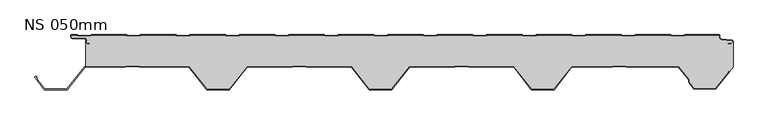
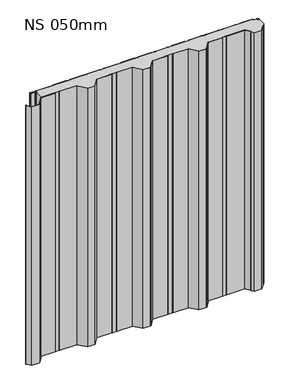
"""IFC4 building model written with IfcOpenShell, lengths in millimetres: plate geometry, KIP-MEX-KC-R19-CP-NS-SL : NS 050mm."""

from ifc_helpers import new_model, si_unit, point, frame, frame_2d, origin, origin_with_axes, place, context, project, spatial, polyline, circle_curve, trimmed, segment, composite_curve, outline, extrude, source, transform, mapped, element, save
from ifc_brep_helpers import plane_surface, cylinder_surface, revolved_surface, advanced_brep


def ns_050mm_d5d04edd(model_context):
    return source(origin(), model_context, "Body", "SolidModel", [
        advanced_brep(
        [(489.051258, -60.0327477, 1224.3718713), (491.4166419, -55.6292245, 1224.3718713), (492.2982989, -56.1011177, 1224.3718713), (489.8911639, -60.5823669, 1224.3718713), (498.3652789, -49.7971296, 1224.3718713), (498.3666923, -11.2514375, 1224.3718713), (496.0840542, -13.6351997, 1224.3718713), (490.2938452, -14.1562355, 1224.3718713), (490.2059002, -13.178913, 1224.3718713), (495.9395891, -12.6629632, 1224.3718713), (497.3642752, -10.8760369, 1224.3718713), (495.9342793, -8.8936988, 1224.3718713), (479.8720443, -7.4885937, 1224.3718713), (477.1334803, -4.5000049, 1224.3718713), (477.1334803, -1.0, 1224.3718713), (424.1786391, -1.0, 1224.3718713), (422.7930062, -2.2002307, 1224.3718713), (403.4178399, -2.2002307, 1224.3718713), (402.0322069, -1.0, 1224.3718713), (347.9787915, -1.0, 1224.3718713), (346.5931586, -2.2002307, 1224.3718713), (327.2179923, -2.2002307, 1224.3718713), (325.8323593, -1.0, 1224.3718713), (271.7789439, -1.0, 1224.3718713), (270.393311, -2.2002307, 1224.3718713), (251.0181447, -2.2002307, 1224.3718713), (249.6325117, -1.0, 1224.3718713), (195.5790963, -1.0, 1224.3718713), (194.1934634, -2.2002307, 1224.3718713), (174.8182971, -2.2002307, 1224.3718713), (173.4326641, -1.0, 1224.3718713), (119.3792487, -1.0, 1224.3718713), (117.9936158, -2.2002307, 1224.3718713), (98.6184495, -2.2002307, 1224.3718713), (97.2328165, -1.0, 1224.3718713), (43.1794011, -1.0, 1224.3718713), (41.7937682, -2.2002307, 1224.3718713), (22.4186019, -2.2002307, 1224.3718713), (21.0329689, -1.0, 1224.3718713), (-33.0204465, -1.0, 1224.3718713), (-34.4060794, -2.2002307, 1224.3718713), (-53.7812457, -2.2002307, 1224.3718713), (-55.1668787, -1.0, 1224.3718713), (-109.2202941, -1.0, 1224.3718713), (-110.605927, -2.2002307, 1224.3718713), (-129.9810933, -2.2002307, 1224.3718713), (-131.3667263, -1.0, 1224.3718713), (-185.4201417, -1.0, 1224.3718713), (-186.8057746, -2.2002307, 1224.3718713), (-206.1809409, -2.2002307, 1224.3718713), (-207.5665739, -1.0, 1224.3718713), (-261.6199893, -1.0, 1224.3718713), (-263.0056222, -2.2002307, 1224.3718713), (-282.3807885, -2.2002307, 1224.3718713), (-283.7664215, -1.0, 1224.3718713), (-337.8198369, -1.0, 1224.3718713), (-339.2054698, -2.2002307, 1224.3718713), (-358.5806361, -2.2002307, 1224.3718713), (-359.9662691, -1.0, 1224.3718713), (-414.0196845, -1.0, 1224.3718713), (-415.4053174, -2.2002307, 1224.3718713), (-434.7804837, -2.2002307, 1224.3718713), (-436.1661167, -1.0, 1224.3718713), (-490.2195321, -1.0, 1224.3718713), (-491.605165, -2.2002307, 1224.3718713), (-510.9803313, -2.2002307, 1224.3718713), (-512.365974, -0.9999916, 1224.3718713), (-520.8675386, -0.9999916, 1224.3718713), (-520.8675386, -2.4999198, 1224.3718713), (-518.3676343, -4.9998241, 1224.3718713), (-500.3670493, -4.9998241, 1224.3718713), (-497.3666912, -7.998082, 1224.3718713), (-497.3666912, -11.5943952, 1224.3718713), (-496.1253972, -13.0725686, 1224.3718713), (-492.5830624, -13.6943971, 1224.3718713), (-492.7559608, -14.6793372, 1224.3718713), (-496.2982963, -14.0575086, 1224.3718713), (-498.3666923, -11.5958694, 1224.3718713), (-498.3666923, -49.0, 1224.3718713), (-437.8440582, -49.0, 1224.3718713), (-436.4297751, -47.9999989, 1224.3718713), (-417.2222535, -47.9999989, 1224.3718713), (-415.8079704, -49.0, 1224.3718713), (-339.3089934, -49.0, 1224.3718713), (-311.8089635, -84.000038, 1224.3718713), (-277.7809961, -84.000038, 1224.3718713), (-250.2809663, -49.0, 1224.3718713), (-180.8128881, -49.0, 1224.3718713), (-179.398605, -47.9999989, 1224.3718713), (-160.1910833, -47.9999989, 1224.3718713), (-158.7768003, -49.0, 1224.3718713), (-89.3087221, -49.0, 1224.3718713), (-61.8086922, -84.000038, 1224.3718713), (-27.7807248, -84.000038, 1224.3718713), (-0.280695, -49.0, 1224.3718713), (69.1090864, -49.0, 1224.3718713), (70.1732653, -47.9999989, 1224.3718713), (89.809188, -47.9999989, 1224.3718713), (91.2234711, -49.0, 1224.3718713), (160.6915492, -49.0, 1224.3718713), (188.1915791, -84.000038, 1224.3718713), (222.2195465, -84.000038, 1224.3718713), (249.7195763, -49.0, 1224.3718713), (312.1567557, -49.0, 1224.3718713), (313.5710388, -47.9999989, 1224.3718713), (332.7785605, -47.9999989, 1224.3718713), (334.1928435, -49.0, 1224.3718713), (414.6918249, -49.0, 1224.3718713), (430.7058064, -69.3814311, 1224.3718713), (430.7058064, -73.199617, 1224.3718713), (438.4061363, -83.0000369, 1224.3718713), (471.0055308, -83.0000369, 1224.3718713), (489.051258, -60.0327477, 0.0), (471.0055308, -83.0000369, 0.0), (438.4061363, -83.0000369, 0.0), (430.7058064, -73.199617, 0.0), (430.7058064, -69.3814311, 0.0), (414.6918249, -49.0, 0.0), (334.1928435, -49.0, 0.0), (332.7785605, -47.9999989, 0.0), (313.5710388, -47.9999989, 0.0), (312.1567557, -49.0, 0.0), (249.7195763, -49.0, 0.0), (222.2195465, -84.000038, 0.0), (188.1915791, -84.000038, 0.0), (160.6915492, -49.0, 0.0), (91.2234711, -49.0, 0.0), (89.809188, -47.9999989, 0.0), (70.1732653, -47.9999989, 0.0), (69.1090864, -49.0, 0.0), (-0.280695, -49.0, 0.0), (-27.7807248, -84.000038, 0.0), (-61.8086922, -84.000038, 0.0), (-89.3087221, -49.0, 0.0), (-158.7768003, -49.0, 0.0), (-160.1910833, -47.9999989, 0.0), (-179.398605, -47.9999989, 0.0), (-180.8128881, -49.0, 0.0), (-250.2809663, -49.0, 0.0), (-277.7809961, -84.000038, 0.0), (-311.8089635, -84.000038, 0.0), (-339.3089934, -49.0, 0.0), (-415.8079704, -49.0, 0.0), (-417.2222535, -47.9999989, 0.0), (-436.4297751, -47.9999989, 0.0), (-437.8440582, -49.0, 0.0), (-498.3666923, -49.0, 0.0), (-498.3666923, -11.5958694, 0.0), (-496.2982963, -14.0575086, 0.0), (-492.7559608, -14.6793372, 0.0), (-492.5830624, -13.6943971, 0.0), (-496.1253972, -13.0725686, 0.0), (-497.3666912, -11.5943952, 0.0), (-497.3666912, -7.998082, 0.0), (-500.3670493, -4.9998241, 0.0), (-518.3676343, -4.9998241, 0.0), (-520.8675386, -2.4999198, 0.0), (-520.8675386, -0.9999916, 0.0), (-512.365974, -0.9999916, 0.0), (-510.9803313, -2.2002307, 0.0), (-491.605165, -2.2002307, 0.0), (-490.2195321, -1.0, 0.0), (-436.1661167, -1.0, 0.0), (-434.7804837, -2.2002307, 0.0), (-415.4053174, -2.2002307, 0.0), (-414.0196845, -1.0, 0.0), (-359.9662691, -1.0, 0.0), (-358.5806361, -2.2002307, 0.0), (-339.2054698, -2.2002307, 0.0), (-337.8198369, -1.0, 0.0), (-283.7664215, -1.0, 0.0), (-282.3807885, -2.2002307, 0.0), (-263.0056222, -2.2002307, 0.0), (-261.6199893, -1.0, 0.0), (-207.5665739, -1.0, 0.0), (-206.1809409, -2.2002307, 0.0), (-186.8057746, -2.2002307, 0.0), (-185.4201417, -1.0, 0.0), (-131.3667263, -1.0, 0.0), (-129.9810933, -2.2002307, 0.0), (-110.605927, -2.2002307, 0.0), (-109.2202941, -1.0, 0.0), (-55.1668787, -1.0, 0.0), (-53.7812457, -2.2002307, 0.0), (-34.4060794, -2.2002307, 0.0), (-33.0204465, -1.0, 0.0), (21.0329689, -1.0, 0.0), (22.4186019, -2.2002307, 0.0), (41.7937682, -2.2002307, 0.0), (43.1794011, -1.0, 0.0), (97.2328165, -1.0, 0.0), (98.6184495, -2.2002307, 0.0), (117.9936158, -2.2002307, 0.0), (119.3792487, -1.0, 0.0), (173.4326641, -1.0, 0.0), (174.8182971, -2.2002307, 0.0), (194.1934634, -2.2002307, 0.0), (195.5790963, -1.0, 0.0), (249.6325117, -1.0, 0.0), (251.0181447, -2.2002307, 0.0), (270.393311, -2.2002307, 0.0), (271.7789439, -1.0, 0.0), (325.8323593, -1.0, 0.0), (327.2179923, -2.2002307, 0.0), (346.5931586, -2.2002307, 0.0), (347.9787915, -1.0, 0.0), (402.0322069, -1.0, 0.0), (403.4178399, -2.2002307, 0.0), (422.7930062, -2.2002307, 0.0), (424.1786391, -1.0, 0.0), (477.1334803, -1.0, 0.0), (477.1334803, -4.5000049, 0.0), (479.8720443, -7.4885937, 0.0), (495.9342793, -8.8936988, 0.0), (497.3642752, -10.8760369, 0.0), (495.9395891, -12.6629632, 0.0), (490.2059002, -13.178913, 0.0), (490.2938452, -14.1562355, 0.0), (496.0840542, -13.6351997, 0.0), (498.3666923, -11.2514375, 0.0), (498.3652789, -49.7971296, 0.0), (489.8911639, -60.5823669, 0.0), (492.2982989, -56.1011177, 0.0), (491.4166419, -55.6292245, 0.0)],
        [
            (0, 1),
            (1, 2),
            (2, 3),
            (3, 4),
            (4, 5),
            (5, 6, circle_curve(frame((495.5554081, -10.8441969, 1224.3718713), z_axis=(0.0, 0.0, -1.0), x_axis=(0.0, -1.0, 0.0)), 2.8406273)),
            (6, 7),
            (7, 8),
            (8, 9),
            (9, 10, circle_curve(frame((495.560247, -10.8991179, 1224.3718713), z_axis=(0.0, 0.0, 1.0), x_axis=(0.0, -1.0, 0.0)), 1.8041759)),
            (10, 11, circle_curve(frame((495.5292107, -10.6928483, 1224.3718713), z_axis=(0.0, 0.0, 1.0), x_axis=(0.0, -1.0, 0.0)), 1.8441854)),
            (11, 12),
            (12, 13, circle_curve(frame((480.1334825, -4.5000049, 1224.3718713), z_axis=(0.0, 0.0, -1.0), x_axis=(0.0, -1.0, 0.0)), 3.0000022)),
            (13, 14),
            (14, 15),
            (15, 16),
            (16, 17),
            (17, 18),
            (18, 19),
            (19, 20),
            (20, 21),
            (21, 22),
            (22, 23),
            (23, 24),
            (24, 25),
            (25, 26),
            (26, 27),
            (27, 28),
            (28, 29),
            (29, 30),
            (30, 31),
            (31, 32),
            (32, 33),
            (33, 34),
            (34, 35),
            (35, 36),
            (36, 37),
            (37, 38),
            (38, 39),
            (39, 40),
            (40, 41),
            (41, 42),
            (42, 43),
            (43, 44),
            (44, 45),
            (45, 46),
            (46, 47),
            (47, 48),
            (48, 49),
            (49, 50),
            (50, 51),
            (51, 52),
            (52, 53),
            (53, 54),
            (54, 55),
            (55, 56),
            (56, 57),
            (57, 58),
            (58, 59),
            (59, 60),
            (60, 61),
            (61, 62),
            (62, 63),
            (63, 64),
            (64, 65),
            (65, 66),
            (66, 67),
            (67, 68),
            (68, 69, circle_curve(frame((-518.3676343, -2.4999198, 1224.3718713), z_axis=(0.0, 0.0, 1.0), x_axis=(0.0, -1.0, 0.0)), 2.4999043)),
            (69, 70),
            (70, 71, circle_curve(frame((-500.3670493, -8.0001829, 1224.3718713), z_axis=(0.0, 0.0, -1.0), x_axis=(0.0, -1.0, 0.0)), 3.0003589)),
            (71, 72),
            (72, 73, circle_curve(frame((-495.8659157, -11.5943952, 1224.3718713), z_axis=(0.0, 0.0, 1.0), x_axis=(0.0, -1.0, 0.0)), 1.5007755)),
            (73, 74),
            (74, 75),
            (75, 76),
            (76, 77, circle_curve(frame((-495.8659164, -11.5943948, 1224.3718713), z_axis=(0.0, 0.0, -1.0), x_axis=(0.0, -1.0, 0.0)), 2.5007762)),
            (77, 78),
            (78, 79),
            (79, 80),
            (80, 81),
            (81, 82),
            (82, 83),
            (83, 84),
            (84, 85),
            (85, 86),
            (86, 87),
            (87, 88),
            (88, 89),
            (89, 90),
            (90, 91),
            (91, 92),
            (92, 93),
            (93, 94),
            (94, 95),
            (95, 96),
            (96, 97),
            (97, 98),
            (98, 99),
            (99, 100),
            (100, 101),
            (101, 102),
            (102, 103),
            (103, 104),
            (104, 105),
            (105, 106),
            (106, 107),
            (107, 108),
            (108, 109),
            (109, 110),
            (110, 111),
            (111, 0),
            (112, 113),
            (113, 114),
            (114, 115),
            (115, 116),
            (116, 117),
            (117, 118),
            (118, 119),
            (119, 120),
            (120, 121),
            (121, 122),
            (122, 123),
            (123, 124),
            (124, 125),
            (125, 126),
            (126, 127),
            (127, 128),
            (128, 129),
            (129, 130),
            (130, 131),
            (131, 132),
            (132, 133),
            (133, 134),
            (134, 135),
            (135, 136),
            (136, 137),
            (137, 138),
            (138, 139),
            (139, 140),
            (140, 141),
            (141, 142),
            (142, 143),
            (143, 144),
            (144, 145),
            (145, 146),
            (146, 147),
            (147, 148, circle_curve(frame((-495.8659164, -11.5943948, 0.0), z_axis=(0.0, 0.0, 1.0), x_axis=(0.0, -1.0, 0.0)), 2.5007762)),
            (148, 149),
            (149, 150),
            (150, 151),
            (151, 152, circle_curve(frame((-495.8659157, -11.5943952, 0.0), z_axis=(0.0, 0.0, -1.0), x_axis=(0.0, -1.0, 0.0)), 1.5007755)),
            (152, 153),
            (153, 154, circle_curve(frame((-500.3670493, -8.0001829, 0.0), z_axis=(0.0, 0.0, 1.0), x_axis=(0.0, -1.0, 0.0)), 3.0003589)),
            (154, 155),
            (155, 156, circle_curve(frame((-518.3676343, -2.4999198, 0.0), z_axis=(0.0, 0.0, -1.0), x_axis=(0.0, -1.0, 0.0)), 2.4999043)),
            (156, 157),
            (157, 158),
            (158, 159),
            (159, 160),
            (160, 161),
            (161, 162),
            (162, 163),
            (163, 164),
            (164, 165),
            (165, 166),
            (166, 167),
            (167, 168),
            (168, 169),
            (169, 170),
            (170, 171),
            (171, 172),
            (172, 173),
            (173, 174),
            (174, 175),
            (175, 176),
            (176, 177),
            (177, 178),
            (178, 179),
            (179, 180),
            (180, 181),
            (181, 182),
            (182, 183),
            (183, 184),
            (184, 185),
            (185, 186),
            (186, 187),
            (187, 188),
            (188, 189),
            (189, 190),
            (190, 191),
            (191, 192),
            (192, 193),
            (193, 194),
            (194, 195),
            (195, 196),
            (196, 197),
            (197, 198),
            (198, 199),
            (199, 200),
            (200, 201),
            (201, 202),
            (202, 203),
            (203, 204),
            (204, 205),
            (205, 206),
            (206, 207),
            (207, 208),
            (208, 209),
            (209, 210),
            (210, 211),
            (211, 212, circle_curve(frame((480.1334825, -4.5000049, 0.0), z_axis=(0.0, 0.0, 1.0), x_axis=(0.0, -1.0, 0.0)), 3.0000022)),
            (212, 213),
            (213, 214, circle_curve(frame((495.5292107, -10.6928483, 0.0), z_axis=(0.0, 0.0, -1.0), x_axis=(0.0, -1.0, 0.0)), 1.8441854)),
            (214, 215, circle_curve(frame((495.560247, -10.8991179, 0.0), z_axis=(0.0, 0.0, -1.0), x_axis=(0.0, -1.0, 0.0)), 1.8041759)),
            (215, 216),
            (216, 217),
            (217, 218),
            (218, 219, circle_curve(frame((495.5554081, -10.8441969, 0.0), z_axis=(0.0, 0.0, 1.0), x_axis=(0.0, -1.0, 0.0)), 2.8406273)),
            (219, 220),
            (220, 221),
            (221, 222),
            (222, 223),
            (223, 112),
            (0, 112),
            (223, 1),
            (111, 113),
            (110, 114),
            (109, 115),
            (108, 116),
            (107, 117),
            (106, 118),
            (105, 119),
            (104, 120),
            (103, 121),
            (102, 122),
            (101, 123),
            (100, 124),
            (99, 125),
            (98, 126),
            (97, 127),
            (96, 128),
            (95, 129),
            (94, 130),
            (93, 131),
            (92, 132),
            (91, 133),
            (90, 134),
            (89, 135),
            (88, 136),
            (87, 137),
            (86, 138),
            (85, 139),
            (84, 140),
            (83, 141),
            (82, 142),
            (81, 143),
            (80, 144),
            (79, 145),
            (78, 146),
            (2, 222),
            (221, 3),
            (220, 4),
            (219, 5),
            (77, 147),
            (73, 151),
            (150, 74),
            (72, 152),
            (71, 153),
            (70, 154),
            (69, 155),
            (68, 156),
            (67, 157),
            (13, 211),
            (210, 14),
            (12, 212),
            (11, 213),
            (10, 214),
            (9, 215),
            (8, 216),
            (7, 217),
            (6, 218),
            (76, 148),
            (75, 149),
            (66, 158),
            (65, 159),
            (64, 160),
            (63, 161),
            (62, 162),
            (61, 163),
            (60, 164),
            (59, 165),
            (58, 166),
            (57, 167),
            (56, 168),
            (55, 169),
            (54, 170),
            (53, 171),
            (52, 172),
            (51, 173),
            (50, 174),
            (49, 175),
            (48, 176),
            (47, 177),
            (46, 178),
            (45, 179),
            (44, 180),
            (43, 181),
            (42, 182),
            (41, 183),
            (40, 184),
            (39, 185),
            (38, 186),
            (37, 187),
            (36, 188),
            (35, 189),
            (34, 190),
            (33, 191),
            (32, 192),
            (31, 193),
            (30, 194),
            (29, 195),
            (28, 196),
            (27, 197),
            (26, 198),
            (25, 199),
            (24, 200),
            (23, 201),
            (22, 202),
            (21, 203),
            (20, 204),
            (19, 205),
            (18, 206),
            (17, 207),
            (16, 208),
            (15, 209),
        ],
        [
            plane_surface(frame((0.0, -49.0, 1224.3718713), z_axis=(0.0, 0.0, 1.0), x_axis=(0.0, -1.0, 0.0))),
            plane_surface(frame((0.0, -49.0, 0.0), z_axis=(0.0, 0.0, -1.0), x_axis=(0.0, -1.0, 0.0))),
            plane_surface(frame((491.4166419, -55.6292245, 1224.3718713), z_axis=(0.8809503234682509, -0.4732087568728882, 0.0), x_axis=(0.0, 0.0, -1.0))),
            plane_surface(frame((489.051258, -60.0327477, 1224.3718713), z_axis=(0.7863183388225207, -0.6178215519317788, 0.0), x_axis=(0.0, 0.0, -1.0))),
            plane_surface(frame((471.0055308, -83.0000369, 1224.3718713), z_axis=(0.0, -1.0, 0.0), x_axis=(0.0, 0.0, -1.0))),
            plane_surface(frame((438.4061363, -83.0000369, 1224.3718713), z_axis=(-0.7863183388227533, -0.6178215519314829, 0.0), x_axis=(0.0, 0.0, -1.0))),
            plane_surface(frame((430.7058064, -73.199617, 1224.3718713), z_axis=(-1.0, 0.0, 0.0), x_axis=(0.0, 0.0, -1.0))),
            plane_surface(frame((430.7058064, -69.3814311, 1224.3718713), z_axis=(-0.7863183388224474, -0.6178215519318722, 0.0), x_axis=(0.0, 0.0, -1.0))),
            plane_surface(frame((414.6918249, -49.0, 1224.3718713), z_axis=(0.0, -1.0, 0.0), x_axis=(0.0, 0.0, -1.0))),
            plane_surface(frame((334.1928435, -49.0, 1224.3718713), z_axis=(-0.5773317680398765, -0.8165096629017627, 0.0), x_axis=(0.0, 0.0, -1.0))),
            plane_surface(frame((332.7785605, -47.9999989, 1224.3718713), z_axis=(0.0, -1.0, 0.0), x_axis=(0.0, 0.0, -1.0))),
            plane_surface(frame((313.5710388, -47.9999989, 1224.3718713), z_axis=(0.5773317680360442, -0.8165096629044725, 0.0), x_axis=(0.0, 0.0, -1.0))),
            plane_surface(frame((312.1567557, -49.0, 1224.3718713), z_axis=(0.0, -1.0, 0.0), x_axis=(0.0, 0.0, -1.0))),
            plane_surface(frame((249.7195763, -49.0, 1224.3718713), z_axis=(0.7863183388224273, -0.6178215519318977, 0.0), x_axis=(0.0, 0.0, -1.0))),
            plane_surface(frame((222.2195465, -84.000038, 1224.3718713), z_axis=(0.0, -1.0, 0.0), x_axis=(0.0, 0.0, -1.0))),
            plane_surface(frame((188.1915791, -84.000038, 1224.3718713), z_axis=(-0.7863183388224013, -0.6178215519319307, 0.0), x_axis=(0.0, 0.0, -1.0))),
            plane_surface(frame((160.6915492, -49.0, 1224.3718713), z_axis=(0.0, -1.0, 0.0), x_axis=(0.0, 0.0, -1.0))),
            plane_surface(frame((91.2234711, -49.0, 1224.3718713), z_axis=(-0.5773317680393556, -0.8165096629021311, 0.0), x_axis=(0.0, 0.0, -1.0))),
            plane_surface(frame((89.809188, -47.9999989, 1224.3718713), z_axis=(0.0, -1.0, 0.0), x_axis=(0.0, 0.0, -1.0))),
            plane_surface(frame((70.1732653, -47.9999989, 1224.3718713), z_axis=(0.6847910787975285, -0.7287394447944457, 0.0), x_axis=(0.0, 0.0, -1.0))),
            plane_surface(frame((69.1090864, -49.0, 1224.3718713), z_axis=(0.0, -1.0, 0.0), x_axis=(0.0, 0.0, -1.0))),
            plane_surface(frame((-0.280695, -49.0, 1224.3718713), z_axis=(0.7863183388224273, -0.6178215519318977, 0.0), x_axis=(0.0, 0.0, -1.0))),
            plane_surface(frame((-27.7807248, -84.000038, 1224.3718713), z_axis=(0.0, -1.0, 0.0), x_axis=(0.0, 0.0, -1.0))),
            plane_surface(frame((-61.8086922, -84.000038, 1224.3718713), z_axis=(-0.786318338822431, -0.617821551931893, 0.0), x_axis=(0.0, 0.0, -1.0))),
            plane_surface(frame((-89.3087221, -49.0, 1224.3718713), z_axis=(0.0, -1.0, 0.0), x_axis=(0.0, 0.0, -1.0))),
            plane_surface(frame((-158.7768003, -49.0, 1224.3718713), z_axis=(-0.5773317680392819, -0.8165096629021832, 0.0), x_axis=(0.0, 0.0, -1.0))),
            plane_surface(frame((-160.1910833, -47.9999989, 1224.3718713), z_axis=(0.0, -1.0, 0.0), x_axis=(0.0, 0.0, -1.0))),
            plane_surface(frame((-179.398605, -47.9999989, 1224.3718713), z_axis=(0.577331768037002, -0.8165096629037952, 0.0), x_axis=(0.0, 0.0, -1.0))),
            plane_surface(frame((-180.8128881, -49.0, 1224.3718713), z_axis=(0.0, -1.0, 0.0), x_axis=(0.0, 0.0, -1.0))),
            plane_surface(frame((-250.2809663, -49.0, 1224.3718713), z_axis=(0.7863183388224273, -0.6178215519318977, 0.0), x_axis=(0.0, 0.0, -1.0))),
            plane_surface(frame((-277.7809961, -84.000038, 1224.3718713), z_axis=(0.0, -1.0, 0.0), x_axis=(0.0, 0.0, -1.0))),
            plane_surface(frame((-311.8089635, -84.000038, 1224.3718713), z_axis=(-0.7863183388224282, -0.6178215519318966, 0.0), x_axis=(0.0, 0.0, -1.0))),
            plane_surface(frame((-339.3089934, -49.0, 1224.3718713), z_axis=(0.0, -1.0, 0.0), x_axis=(0.0, 0.0, -1.0))),
            plane_surface(frame((-415.8079704, -49.0, 1224.3718713), z_axis=(-0.577331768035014, -0.8165096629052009, 0.0), x_axis=(0.0, 0.0, -1.0))),
            plane_surface(frame((-417.2222535, -47.9999989, 1224.3718713), z_axis=(0.0, -1.0, 0.0), x_axis=(0.0, 0.0, -1.0))),
            plane_surface(frame((-436.4297751, -47.9999989, 1224.3718713), z_axis=(0.577331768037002, -0.8165096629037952, 0.0), x_axis=(0.0, 0.0, -1.0))),
            plane_surface(frame((-437.8440582, -49.0, 1224.3718713), z_axis=(0.0, -1.0, 0.0), x_axis=(0.0, 0.0, -1.0))),
            plane_surface(frame((489.8911639, -60.5823669, 1224.3718713), z_axis=(-0.8809503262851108, 0.4732087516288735, 0.0), x_axis=(0.0, 0.0, -1.0))),
            plane_surface(frame((492.2982989, -56.1011177, 1224.3718713), z_axis=(-0.4718927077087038, -0.8816559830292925, 0.0), x_axis=(0.0, 0.0, -1.0))),
            plane_surface(frame((498.3652789, -49.7971296, 1224.3718713), z_axis=(0.7863183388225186, -0.6178215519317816, 0.0), x_axis=(0.0, 0.0, -1.0))),
            plane_surface(frame((498.3652789, -44.8065083, 1224.3718713), z_axis=(1.0, 0.0, 0.0), x_axis=(0.0, 0.0, -1.0))),
            plane_surface(frame((-498.3666923, -49.0, 1224.3718713), z_axis=(-1.0, 0.0, 0.0), x_axis=(0.0, 0.0, -1.0))),
            plane_surface(frame((-492.5830624, -13.6943971, 1224.3718713), z_axis=(-0.17289827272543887, -0.9849396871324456, 0.0), x_axis=(0.0, 0.0, -1.0))),
            cylinder_surface(frame((-495.8659157, -11.5943952, 1224.3718713), z_axis=(0.0, 0.0, 1.0), x_axis=(0.0, -1.0, 0.0)), 1.5007755),
            plane_surface(frame((-497.3666912, -11.5943952, 1224.3718713), z_axis=(-1.0, 0.0, 0.0), x_axis=(0.0, 0.0, -1.0))),
            revolved_surface(polyline([(-500.3670493, -11.0005418, 0.0), (-500.3670493, -11.0005418, 1224.3718713)]), (-500.3670493, -8.0001829, 1224.3718713), (0.0, 0.0, -1.0)),
            plane_surface(frame((-500.3670493, -4.9998241, 1224.3718713), z_axis=(0.0, -1.0, 0.0), x_axis=(0.0, 0.0, -1.0))),
            cylinder_surface(frame((-518.3676343, -2.4999198, 1224.3718713), z_axis=(0.0, 0.0, 1.0), x_axis=(0.0, -1.0, 0.0)), 2.4999043),
            plane_surface(frame((-520.8675386, -2.4999198, 1224.3718713), z_axis=(-1.0, 0.0, 0.0), x_axis=(0.0, 0.0, -1.0))),
            plane_surface(frame((477.1334803, -1.0, 1224.3718713), z_axis=(1.0, 0.0, 0.0), x_axis=(0.0, 0.0, -1.0))),
            revolved_surface(polyline([(480.1334825, -7.5000071, 0.0), (480.1334825, -7.5000071, 1224.3718713)]), (480.1334825, -4.5000049, 1224.3718713), (0.0, 0.0, -1.0)),
            plane_surface(frame((479.8720443, -7.4885937, 1224.3718713), z_axis=(0.0871459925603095, 0.9961955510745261, 0.0), x_axis=(0.0, 0.0, -1.0))),
            cylinder_surface(frame((495.5292107, -10.6928483, 1224.3718713), z_axis=(0.0, 0.0, 1.0), x_axis=(0.0, -1.0, 0.0)), 1.8441854),
            cylinder_surface(frame((495.560247, -10.8991179, 1224.3718713), z_axis=(0.0, 0.0, 1.0), x_axis=(0.0, -1.0, 0.0)), 1.8041759),
            plane_surface(frame((495.9395891, -12.6629632, 1224.3718713), z_axis=(0.0896235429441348, -0.995975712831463, 0.0), x_axis=(0.0, 0.0, -1.0))),
            plane_surface(frame((490.2059002, -13.178913, 1224.3718713), z_axis=(0.9959757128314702, 0.08962354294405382, 0.0), x_axis=(0.0, 0.0, -1.0))),
            plane_surface(frame((490.2938452, -14.1562355, 1224.3718713), z_axis=(-0.0896235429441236, 0.995975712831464, 0.0), x_axis=(0.0, 0.0, -1.0))),
            revolved_surface(polyline([(495.5554081, -13.6848242, 0.0), (495.5554081, -13.6848242, 1224.3718713)]), (495.5554081, -10.8441969, 1224.3718713), (0.0, 0.0, -1.0)),
            revolved_surface(polyline([(-495.8659164, -14.095171, 0.0), (-495.8659164, -14.095171, 1224.3718713)]), (-495.8659164, -11.5943948, 1224.3718713), (0.0, 0.0, -1.0)),
            plane_surface(frame((-496.2982963, -14.0575086, 1224.3718713), z_axis=(0.17289827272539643, 0.9849396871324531, 0.0), x_axis=(0.0, 0.0, -1.0))),
            plane_surface(frame((-492.7559608, -14.6793372, 1224.3718713), z_axis=(-0.9849396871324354, 0.1728982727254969, 0.0), x_axis=(0.0, 0.0, -1.0))),
            plane_surface(frame((-520.8675386, -0.9999916, 1224.3718713), z_axis=(0.0, 1.0, 0.0), x_axis=(0.0, 0.0, -1.0))),
            plane_surface(frame((-512.365974, -0.9999916, 1224.3718713), z_axis=(0.6547276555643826, 0.7558648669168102, 0.0), x_axis=(0.0, 0.0, -1.0))),
            plane_surface(frame((-510.9803313, -2.2002307, 1224.3718713), z_axis=(0.0, 1.0, 0.0), x_axis=(0.0, 0.0, -1.0))),
            plane_surface(frame((-491.605165, -2.2002307, 1224.3718713), z_axis=(-0.6547276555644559, 0.7558648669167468, 0.0), x_axis=(0.0, 0.0, -1.0))),
            plane_surface(frame((-490.2195321, -1.0, 1224.3718713), z_axis=(0.0, 1.0, 0.0), x_axis=(0.0, 0.0, -1.0))),
            plane_surface(frame((-436.1661167, -1.0, 1224.3718713), z_axis=(0.6547276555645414, 0.7558648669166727, 0.0), x_axis=(0.0, 0.0, -1.0))),
            plane_surface(frame((-434.7804837, -2.2002307, 1224.3718713), z_axis=(0.0, 1.0, 0.0), x_axis=(0.0, 0.0, -1.0))),
            plane_surface(frame((-415.4053174, -2.2002307, 1224.3718713), z_axis=(-0.6547276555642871, 0.755864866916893, 0.0), x_axis=(0.0, 0.0, -1.0))),
            plane_surface(frame((-414.0196845, -1.0, 1224.3718713), z_axis=(0.0, 1.0, 0.0), x_axis=(0.0, 0.0, -1.0))),
            plane_surface(frame((-359.9662691, -1.0, 1224.3718713), z_axis=(0.6547276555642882, 0.7558648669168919, 0.0), x_axis=(0.0, 0.0, -1.0))),
            plane_surface(frame((-358.5806361, -2.2002307, 1224.3718713), z_axis=(0.0, 1.0, 0.0), x_axis=(0.0, 0.0, -1.0))),
            plane_surface(frame((-339.2054698, -2.2002307, 1224.3718713), z_axis=(-0.6547276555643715, 0.7558648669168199, 0.0), x_axis=(0.0, 0.0, -1.0))),
            plane_surface(frame((-337.8198369, -1.0, 1224.3718713), z_axis=(0.0, 1.0, 0.0), x_axis=(0.0, 0.0, -1.0))),
            plane_surface(frame((-283.7664215, -1.0, 1224.3718713), z_axis=(0.6547276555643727, 0.7558648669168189, 0.0), x_axis=(0.0, 0.0, -1.0))),
            plane_surface(frame((-282.3807885, -2.2002307, 1224.3718713), z_axis=(0.0, 1.0, 0.0), x_axis=(0.0, 0.0, -1.0))),
            plane_surface(frame((-263.0056222, -2.2002307, 1224.3718713), z_axis=(-0.6547276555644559, 0.7558648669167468, 0.0), x_axis=(0.0, 0.0, -1.0))),
            plane_surface(frame((-261.6199893, -1.0, 1224.3718713), z_axis=(0.0, 1.0, 0.0), x_axis=(0.0, 0.0, -1.0))),
            plane_surface(frame((-207.5665739, -1.0, 1224.3718713), z_axis=(0.654727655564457, 0.7558648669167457, 0.0), x_axis=(0.0, 0.0, -1.0))),
            plane_surface(frame((-206.1809409, -2.2002307, 1224.3718713), z_axis=(0.0, 1.0, 0.0), x_axis=(0.0, 0.0, -1.0))),
            plane_surface(frame((-186.8057746, -2.2002307, 1224.3718713), z_axis=(-0.6547276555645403, 0.7558648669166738, 0.0), x_axis=(0.0, 0.0, -1.0))),
            plane_surface(frame((-185.4201417, -1.0, 1224.3718713), z_axis=(0.0, 1.0, 0.0), x_axis=(0.0, 0.0, -1.0))),
            plane_surface(frame((-131.3667263, -1.0, 1224.3718713), z_axis=(0.6547276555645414, 0.7558648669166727, 0.0), x_axis=(0.0, 0.0, -1.0))),
            plane_surface(frame((-129.9810933, -2.2002307, 1224.3718713), z_axis=(0.0, 1.0, 0.0), x_axis=(0.0, 0.0, -1.0))),
            plane_surface(frame((-110.605927, -2.2002307, 1224.3718713), z_axis=(-0.6547276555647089, 0.7558648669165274, 0.0), x_axis=(0.0, 0.0, -1.0))),
            plane_surface(frame((-109.2202941, -1.0, 1224.3718713), z_axis=(0.0, 1.0, 0.0), x_axis=(0.0, 0.0, -1.0))),
            plane_surface(frame((-55.1668787, -1.0, 1224.3718713), z_axis=(0.6547276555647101, 0.7558648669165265, 0.0), x_axis=(0.0, 0.0, -1.0))),
            plane_surface(frame((-53.7812457, -2.2002307, 1224.3718713), z_axis=(0.0, 1.0, 0.0), x_axis=(0.0, 0.0, -1.0))),
            plane_surface(frame((-34.4060794, -2.2002307, 1224.3718713), z_axis=(-0.6547276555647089, 0.7558648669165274, 0.0), x_axis=(0.0, 0.0, -1.0))),
            plane_surface(frame((-33.0204465, -1.0, 1224.3718713), z_axis=(0.0, 1.0, 0.0), x_axis=(0.0, 0.0, -1.0))),
            plane_surface(frame((21.0329689, -1.0, 1224.3718713), z_axis=(0.6547276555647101, 0.7558648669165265, 0.0), x_axis=(0.0, 0.0, -1.0))),
            plane_surface(frame((22.4186019, -2.2002307, 1224.3718713), z_axis=(0.0, 1.0, 0.0), x_axis=(0.0, 0.0, -1.0))),
            plane_surface(frame((41.7937682, -2.2002307, 1224.3718713), z_axis=(-0.6547276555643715, 0.7558648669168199, 0.0), x_axis=(0.0, 0.0, -1.0))),
            plane_surface(frame((43.1794011, -1.0, 1224.3718713), z_axis=(0.0, 1.0, 0.0), x_axis=(0.0, 0.0, -1.0))),
            plane_surface(frame((97.2328165, -1.0, 1224.3718713), z_axis=(0.6547276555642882, 0.7558648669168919, 0.0), x_axis=(0.0, 0.0, -1.0))),
            plane_surface(frame((98.6184495, -2.2002307, 1224.3718713), z_axis=(0.0, 1.0, 0.0), x_axis=(0.0, 0.0, -1.0))),
            plane_surface(frame((117.9936158, -2.2002307, 1224.3718713), z_axis=(-0.6547276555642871, 0.755864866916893, 0.0), x_axis=(0.0, 0.0, -1.0))),
            plane_surface(frame((119.3792487, -1.0, 1224.3718713), z_axis=(0.0, 1.0, 0.0), x_axis=(0.0, 0.0, -1.0))),
            plane_surface(frame((173.4326641, -1.0, 1224.3718713), z_axis=(0.6547276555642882, 0.7558648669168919, 0.0), x_axis=(0.0, 0.0, -1.0))),
            plane_surface(frame((174.8182971, -2.2002307, 1224.3718713), z_axis=(0.0, 1.0, 0.0), x_axis=(0.0, 0.0, -1.0))),
            plane_surface(frame((194.1934634, -2.2002307, 1224.3718713), z_axis=(-0.6547276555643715, 0.7558648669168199, 0.0), x_axis=(0.0, 0.0, -1.0))),
            plane_surface(frame((195.5790963, -1.0, 1224.3718713), z_axis=(0.0, 1.0, 0.0), x_axis=(0.0, 0.0, -1.0))),
            plane_surface(frame((249.6325117, -1.0, 1224.3718713), z_axis=(0.6547276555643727, 0.7558648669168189, 0.0), x_axis=(0.0, 0.0, -1.0))),
            plane_surface(frame((251.0181447, -2.2002307, 1224.3718713), z_axis=(0.0, 1.0, 0.0), x_axis=(0.0, 0.0, -1.0))),
            plane_surface(frame((270.393311, -2.2002307, 1224.3718713), z_axis=(-0.6547276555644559, 0.7558648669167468, 0.0), x_axis=(0.0, 0.0, -1.0))),
            plane_surface(frame((271.7789439, -1.0, 1224.3718713), z_axis=(0.0, 1.0, 0.0), x_axis=(0.0, 0.0, -1.0))),
            plane_surface(frame((325.8323593, -1.0, 1224.3718713), z_axis=(0.654727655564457, 0.7558648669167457, 0.0), x_axis=(0.0, 0.0, -1.0))),
            plane_surface(frame((327.2179923, -2.2002307, 1224.3718713), z_axis=(0.0, 1.0, 0.0), x_axis=(0.0, 0.0, -1.0))),
            plane_surface(frame((346.5931586, -2.2002307, 1224.3718713), z_axis=(-0.6547276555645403, 0.7558648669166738, 0.0), x_axis=(0.0, 0.0, -1.0))),
            plane_surface(frame((347.9787915, -1.0, 1224.3718713), z_axis=(0.0, 1.0, 0.0), x_axis=(0.0, 0.0, -1.0))),
            plane_surface(frame((402.0322069, -1.0, 1224.3718713), z_axis=(0.6547276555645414, 0.7558648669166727, 0.0), x_axis=(0.0, 0.0, -1.0))),
            plane_surface(frame((403.4178399, -2.2002307, 1224.3718713), z_axis=(0.0, 1.0, 0.0), x_axis=(0.0, 0.0, -1.0))),
            plane_surface(frame((422.7930062, -2.2002307, 1224.3718713), z_axis=(-0.6547276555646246, 0.7558648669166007, 0.0), x_axis=(0.0, 0.0, -1.0))),
            plane_surface(frame((424.1786391, -1.0, 1224.3718713), z_axis=(0.0, 1.0, 0.0), x_axis=(0.0, 0.0, -1.0))),
        ],
        [
            (0, [[1, 2, 3, 4, 5, 6, 7, 8, 9, 10, 11, 12, 13, 14, 15, 16, 17, 18, 19, 20, 21, 22, 23, 24, 25, 26, 27, 28, 29, 30, 31, 32, 33, 34, 35, 36, 37, 38, 39, 40, 41, 42, 43, 44, 45, 46, 47, 48, 49, 50, 51, 52, 53, 54, 55, 56, 57, 58, 59, 60, 61, 62, 63, 64, 65, 66, 67, 68, 69, 70, 71, 72, 73, 74, 75, 76, 77, 78, 79, 80, 81, 82, 83, 84, 85, 86, 87, 88, 89, 90, 91, 92, 93, 94, 95, 96, 97, 98, 99, 100, 101, 102, 103, 104, 105, 106, 107, 108, 109, 110, 111, 112]]),
            (1, [[113, 114, 115, 116, 117, 118, 119, 120, 121, 122, 123, 124, 125, 126, 127, 128, 129, 130, 131, 132, 133, 134, 135, 136, 137, 138, 139, 140, 141, 142, 143, 144, 145, 146, 147, 148, 149, 150, 151, 152, 153, 154, 155, 156, 157, 158, 159, 160, 161, 162, 163, 164, 165, 166, 167, 168, 169, 170, 171, 172, 173, 174, 175, 176, 177, 178, 179, 180, 181, 182, 183, 184, 185, 186, 187, 188, 189, 190, 191, 192, 193, 194, 195, 196, 197, 198, 199, 200, 201, 202, 203, 204, 205, 206, 207, 208, 209, 210, 211, 212, 213, 214, 215, 216, 217, 218, 219, 220, 221, 222, 223, 224]]),
            (2, [[225, -224, 226, -1]]),
            (3, [[227, -113, -225, -112]]),
            (4, [[228, -114, -227, -111]]),
            (5, [[229, -115, -228, -110]]),
            (6, [[230, -116, -229, -109]]),
            (7, [[231, -117, -230, -108]]),
            (8, [[232, -118, -231, -107]]),
            (9, [[233, -119, -232, -106]]),
            (10, [[234, -120, -233, -105]]),
            (11, [[235, -121, -234, -104]]),
            (12, [[236, -122, -235, -103]]),
            (13, [[237, -123, -236, -102]]),
            (14, [[238, -124, -237, -101]]),
            (15, [[239, -125, -238, -100]]),
            (16, [[240, -126, -239, -99]]),
            (17, [[241, -127, -240, -98]]),
            (18, [[242, -128, -241, -97]]),
            (19, [[243, -129, -242, -96]]),
            (20, [[244, -130, -243, -95]]),
            (21, [[245, -131, -244, -94]]),
            (22, [[246, -132, -245, -93]]),
            (23, [[247, -133, -246, -92]]),
            (24, [[248, -134, -247, -91]]),
            (25, [[249, -135, -248, -90]]),
            (26, [[250, -136, -249, -89]]),
            (27, [[251, -137, -250, -88]]),
            (28, [[252, -138, -251, -87]]),
            (29, [[253, -139, -252, -86]]),
            (30, [[254, -140, -253, -85]]),
            (31, [[255, -141, -254, -84]]),
            (32, [[256, -142, -255, -83]]),
            (33, [[257, -143, -256, -82]]),
            (34, [[258, -144, -257, -81]]),
            (35, [[259, -145, -258, -80]]),
            (36, [[260, -146, -259, -79]]),
            (37, [[261, -222, 262, -3]]),
            (38, [[-226, -223, -261, -2]]),
            (39, [[-262, -221, 263, -4]]),
            (40, [[-263, -220, 264, -5]]),
            (41, [[265, -147, -260, -78]]),
            (42, [[266, -151, 267, -74]]),
            (43, [[268, -152, -266, -73]]),
            (44, [[269, -153, -268, -72]]),
            (45, [[270, -154, -269, -71]]),
            (46, [[271, -155, -270, -70]]),
            (47, [[272, -156, -271, -69]]),
            (48, [[273, -157, -272, -68]]),
            (49, [[274, -211, 275, -14]]),
            (50, [[276, -212, -274, -13]]),
            (51, [[277, -213, -276, -12]]),
            (52, [[278, -214, -277, -11]]),
            (53, [[279, -215, -278, -10]]),
            (54, [[280, -216, -279, -9]]),
            (55, [[281, -217, -280, -8]]),
            (56, [[282, -218, -281, -7]]),
            (57, [[-264, -219, -282, -6]]),
            (58, [[283, -148, -265, -77]]),
            (59, [[284, -149, -283, -76]]),
            (60, [[-267, -150, -284, -75]]),
            (61, [[285, -158, -273, -67]]),
            (62, [[286, -159, -285, -66]]),
            (63, [[287, -160, -286, -65]]),
            (64, [[288, -161, -287, -64]]),
            (65, [[289, -162, -288, -63]]),
            (66, [[290, -163, -289, -62]]),
            (67, [[291, -164, -290, -61]]),
            (68, [[292, -165, -291, -60]]),
            (69, [[293, -166, -292, -59]]),
            (70, [[294, -167, -293, -58]]),
            (71, [[295, -168, -294, -57]]),
            (72, [[296, -169, -295, -56]]),
            (73, [[297, -170, -296, -55]]),
            (74, [[298, -171, -297, -54]]),
            (75, [[299, -172, -298, -53]]),
            (76, [[300, -173, -299, -52]]),
            (77, [[301, -174, -300, -51]]),
            (78, [[302, -175, -301, -50]]),
            (79, [[303, -176, -302, -49]]),
            (80, [[304, -177, -303, -48]]),
            (81, [[305, -178, -304, -47]]),
            (82, [[306, -179, -305, -46]]),
            (83, [[307, -180, -306, -45]]),
            (84, [[308, -181, -307, -44]]),
            (85, [[309, -182, -308, -43]]),
            (86, [[310, -183, -309, -42]]),
            (87, [[311, -184, -310, -41]]),
            (88, [[312, -185, -311, -40]]),
            (89, [[313, -186, -312, -39]]),
            (90, [[314, -187, -313, -38]]),
            (91, [[315, -188, -314, -37]]),
            (92, [[316, -189, -315, -36]]),
            (93, [[317, -190, -316, -35]]),
            (94, [[318, -191, -317, -34]]),
            (95, [[319, -192, -318, -33]]),
            (96, [[320, -193, -319, -32]]),
            (97, [[321, -194, -320, -31]]),
            (98, [[322, -195, -321, -30]]),
            (99, [[323, -196, -322, -29]]),
            (100, [[324, -197, -323, -28]]),
            (101, [[325, -198, -324, -27]]),
            (102, [[326, -199, -325, -26]]),
            (103, [[327, -200, -326, -25]]),
            (104, [[328, -201, -327, -24]]),
            (105, [[329, -202, -328, -23]]),
            (106, [[330, -203, -329, -22]]),
            (107, [[331, -204, -330, -21]]),
            (108, [[332, -205, -331, -20]]),
            (109, [[333, -206, -332, -19]]),
            (110, [[334, -207, -333, -18]]),
            (111, [[335, -208, -334, -17]]),
            (112, [[336, -209, -335, -16]]),
            (113, [[-275, -210, -336, -15]]),
        ],
    ),
        extrude(outline(composite_curve([segment(polyline([(478.1334775, -1.4999961), (478.1334775, -4.4999933)]), True, "CONTINUOUS"), segment(trimmed(circle_curve(frame_2d((480.1334812, -4.4999933)), 2.0000037), [point((478.1334775, -4.4999933))], [point((479.9591695, -6.4923864))], True, "CARTESIAN"), True, "CONTINUOUS"), segment(polyline([(479.9591695, -6.4923864), (496.082008, -7.9029509)]), True, "CONTINUOUS"), segment(trimmed(circle_curve(frame_2d((495.5416287, -10.6752534)), 2.8244771), [point((496.082008, -7.9029509))], [point((498.3641211, -10.7811193))], False, "CARTESIAN"), True, "CONTINUOUS"), segment(trimmed(circle_curve(frame_2d((495.5596027, -10.901237)), 2.8070896), [point((498.3641211, -10.7811193))], [point((496.082008, -13.6592878))], False, "CARTESIAN"), True, "CONTINUOUS"), segment(polyline([(496.082008, -13.6592878), (490.2934558, -14.1657205), (490.2063001, -13.1695258), (495.9395575, -12.6679308)]), True, "CONTINUOUS"), segment(trimmed(circle_curve(frame_2d((495.5596027, -10.901237)), 1.8070896), [point((495.9395575, -12.6679308))], [point((497.3665444, -10.8781186))], True, "CARTESIAN"), True, "CONTINUOUS"), segment(trimmed(circle_curve(frame_2d((495.5297649, -10.6947587)), 1.8459089), [point((497.3665444, -10.8781186))], [point((495.935212, -8.8939277))], True, "CARTESIAN"), True, "CONTINUOUS"), segment(polyline([(495.935212, -8.8939277), (479.872015, -7.4885801)]), True, "CONTINUOUS"), segment(trimmed(circle_curve(frame_2d((480.1334825, -4.4999938)), 3.0000022), [point((479.872015, -7.4885801))], [point((477.1334803, -4.4999938))], False, "CARTESIAN"), True, "CONTINUOUS"), segment(polyline([(477.1334803, -4.4999938), (477.1334803, -1.0), (424.1786391, -1.0), (422.7930061, -2.2002307), (403.4178398, -2.2002307), (402.0322069, -1.0), (347.9787915, -1.0), (346.5931585, -2.2002307), (327.2179922, -2.2002307), (325.8323593, -1.0), (271.7789439, -1.0), (270.3933109, -2.2002307), (251.0181446, -2.2002307), (249.6325117, -1.0), (195.5790963, -1.0), (194.1934633, -2.2002307), (174.818297, -2.2002307), (173.4326641, -1.0), (119.3792487, -1.0), (117.9936157, -2.2002307), (98.6184494, -2.2002307), (97.2328165, -1.0), (43.1794011, -1.0), (41.7937681, -2.2002307), (22.4186018, -2.2002307), (21.0329689, -1.0), (-33.0204465, -1.0), (-34.4060795, -2.2002307), (-53.7812458, -2.2002307), (-55.1668787, -1.0), (-109.2202941, -1.0), (-110.6059271, -2.2002307), (-129.9810934, -2.2002307), (-131.3667263, -1.0), (-185.4201417, -1.0), (-186.8057747, -2.2002307), (-206.180941, -2.2002307), (-207.5665739, -1.0), (-261.6199893, -1.0), (-263.0056223, -2.2002307), (-282.3807886, -2.2002307), (-283.7664215, -1.0), (-337.8198369, -1.0), (-339.2054699, -2.2002307), (-358.5806362, -2.2002307), (-359.9662691, -1.0), (-414.0196845, -1.0), (-415.4053175, -2.2002307), (-434.7804838, -2.2002307), (-436.1661167, -1.0), (-490.2195321, -1.0), (-491.6051651, -2.2002307), (-510.9803314, -2.2002307), (-512.3659771, -0.9999889), (-520.8675386, -0.9999889), (-520.8675386, -2.4999087)]), True, "CONTINUOUS"), segment(trimmed(circle_curve(frame_2d((-518.3676343, -2.4999087)), 2.4999043), [point((-520.8675386, -2.4999087))], [point((-518.3676343, -4.999813))], True, "CARTESIAN"), True, "CONTINUOUS"), segment(polyline([(-518.3676343, -4.999813), (-500.3670493, -4.999813)]), True, "CONTINUOUS"), segment(trimmed(circle_curve(frame_2d((-500.3670493, -8.0001719)), 3.0003589), [point((-500.3670493, -4.999813))], [point((-497.3666911, -7.9980709))], False, "CARTESIAN"), True, "CONTINUOUS"), segment(polyline([(-497.3666911, -7.9980709), (-497.3666911, -11.5943841)]), True, "CONTINUOUS"), segment(trimmed(circle_curve(frame_2d((-495.8659158, -11.5943841)), 1.5007756), [point((-497.3666911, -11.5943841))], [point((-496.1253973, -13.0725576))], True, "CARTESIAN"), True, "CONTINUOUS"), segment(polyline([(-496.1253973, -13.0725576), (-492.5830625, -13.694386), (-492.7559608, -14.6793261), (-496.2982963, -14.0574975)]), True, "CONTINUOUS"), segment(trimmed(circle_curve(frame_2d((-495.8659164, -11.5943838)), 2.5007763), [point((-496.2982963, -14.0574975))], [point((-498.3666923, -11.5958583))], False, "CARTESIAN"), True, "CONTINUOUS"), segment(polyline([(-498.3666923, -11.5958583), (-498.3666923, -7.9986755)]), True, "CONTINUOUS"), segment(trimmed(circle_curve(frame_2d((-500.3670479, -8.0001747)), 2.0003562), [point((-498.3666923, -7.9986755))], [point((-500.3670479, -5.9998185))], True, "CARTESIAN"), True, "CONTINUOUS"), segment(polyline([(-500.3670479, -5.9998185), (-518.3676454, -5.9998185)]), True, "CONTINUOUS"), segment(trimmed(circle_curve(frame_2d((-518.3676454, -2.4999032)), 3.4999153), [point((-518.3676454, -5.9998185))], [point((-521.8675607, -2.4999032))], False, "CARTESIAN"), True, "CONTINUOUS"), segment(polyline([(-521.8675607, -2.4999032), (-521.8675607, -1.4999795)]), True, "CONTINUOUS"), segment(trimmed(circle_curve(frame_2d((-520.3675812, -1.4999795)), 1.4999795), [point((-521.8675607, -1.4999795))], [point((-520.3675812, 0.0))], False, "CARTESIAN"), True, "CONTINUOUS"), segment(polyline([(-520.3675812, 0.0), (-512.5151155, 0.0)]), True, "CONTINUOUS"), segment(trimmed(circle_curve(frame_2d((-512.5151155, -1.3999972)), 1.3999972), [point((-512.5151155, 0.0))], [point((-511.5984986, -0.3417885))], False, "CARTESIAN"), True, "CONTINUOUS"), segment(polyline([(-511.5984986, -0.3417885), (-510.6074509, -1.2002307), (-491.9780455, -1.2002307), (-490.9869979, -0.3417885)]), True, "CONTINUOUS"), segment(trimmed(circle_curve(frame_2d((-490.070381, -1.3999972)), 1.3999972), [point((-490.9869979, -0.3417885))], [point((-490.070381, 0.0))], False, "CARTESIAN"), True, "CONTINUOUS"), segment(polyline([(-490.070381, 0.0), (-436.3152679, 0.0)]), True, "CONTINUOUS"), segment(trimmed(circle_curve(frame_2d((-436.3152679, -1.3999972)), 1.3999972), [point((-436.3152679, 0.0))], [point((-435.398651, -0.3417885))], False, "CARTESIAN"), True, "CONTINUOUS"), segment(polyline([(-435.398651, -0.3417885), (-434.4076033, -1.2002307), (-415.7781979, -1.2002307), (-414.7871503, -0.3417885)]), True, "CONTINUOUS"), segment(trimmed(circle_curve(frame_2d((-413.8705334, -1.3999972)), 1.3999972), [point((-414.7871503, -0.3417885))], [point((-413.8705334, 0.0))], False, "CARTESIAN"), True, "CONTINUOUS"), segment(polyline([(-413.8705334, 0.0), (-360.1154203, 0.0)]), True, "CONTINUOUS"), segment(trimmed(circle_curve(frame_2d((-360.1154203, -1.3999972)), 1.3999972), [point((-360.1154203, 0.0))], [point((-359.1988034, -0.3417885))], False, "CARTESIAN"), True, "CONTINUOUS"), segment(polyline([(-359.1988034, -0.3417885), (-358.2077557, -1.2002307), (-339.5783503, -1.2002307), (-338.5873027, -0.3417885)]), True, "CONTINUOUS"), segment(trimmed(circle_curve(frame_2d((-337.6706858, -1.3999972)), 1.3999972), [point((-338.5873027, -0.3417885))], [point((-337.6706858, 0.0))], False, "CARTESIAN"), True, "CONTINUOUS"), segment(polyline([(-337.6706858, 0.0), (-283.9155727, 0.0)]), True, "CONTINUOUS"), segment(trimmed(circle_curve(frame_2d((-283.9155727, -1.3999972)), 1.3999972), [point((-283.9155727, 0.0))], [point((-282.9989558, -0.3417885))], False, "CARTESIAN"), True, "CONTINUOUS"), segment(polyline([(-282.9989558, -0.3417885), (-282.0079081, -1.2002307), (-263.3785027, -1.2002307), (-262.3874551, -0.3417885)]), True, "CONTINUOUS"), segment(trimmed(circle_curve(frame_2d((-261.4708382, -1.3999972)), 1.3999972), [point((-262.3874551, -0.3417885))], [point((-261.4708382, 0.0))], False, "CARTESIAN"), True, "CONTINUOUS"), segment(polyline([(-261.4708382, 0.0), (-207.7157251, 0.0)]), True, "CONTINUOUS"), segment(trimmed(circle_curve(frame_2d((-207.7157251, -1.3999972)), 1.3999972), [point((-207.7157251, 0.0))], [point((-206.7991082, -0.3417885))], False, "CARTESIAN"), True, "CONTINUOUS"), segment(polyline([(-206.7991082, -0.3417885), (-205.8080605, -1.2002307), (-187.1786551, -1.2002307), (-186.1876075, -0.3417885)]), True, "CONTINUOUS"), segment(trimmed(circle_curve(frame_2d((-185.2709906, -1.3999972)), 1.3999972), [point((-186.1876075, -0.3417885))], [point((-185.2709906, 0.0))], False, "CARTESIAN"), True, "CONTINUOUS"), segment(polyline([(-185.2709906, 0.0), (-131.5158775, 0.0)]), True, "CONTINUOUS"), segment(trimmed(circle_curve(frame_2d((-131.5158775, -1.3999972)), 1.3999972), [point((-131.5158775, 0.0))], [point((-130.5992606, -0.3417885))], False, "CARTESIAN"), True, "CONTINUOUS"), segment(polyline([(-130.5992606, -0.3417885), (-129.6082129, -1.2002307), (-110.9788075, -1.2002307), (-109.9877599, -0.3417885)]), True, "CONTINUOUS"), segment(trimmed(circle_curve(frame_2d((-109.071143, -1.3999972)), 1.3999972), [point((-109.9877599, -0.3417885))], [point((-109.071143, 0.0))], False, "CARTESIAN"), True, "CONTINUOUS"), segment(polyline([(-109.071143, 0.0), (-55.3160299, 0.0)]), True, "CONTINUOUS"), segment(trimmed(circle_curve(frame_2d((-55.3160299, -1.3999972)), 1.3999972), [point((-55.3160299, 0.0))], [point((-54.399413, -0.3417885))], False, "CARTESIAN"), True, "CONTINUOUS"), segment(polyline([(-54.399413, -0.3417885), (-53.4083653, -1.2002307), (-34.7789599, -1.2002307), (-33.7879123, -0.3417885)]), True, "CONTINUOUS"), segment(trimmed(circle_curve(frame_2d((-32.8712954, -1.3999972)), 1.3999972), [point((-33.7879123, -0.3417885))], [point((-32.8712954, 0.0))], False, "CARTESIAN"), True, "CONTINUOUS"), segment(polyline([(-32.8712954, 0.0), (20.8838177, 0.0)]), True, "CONTINUOUS"), segment(trimmed(circle_curve(frame_2d((20.8838177, -1.3999972)), 1.3999972), [point((20.8838177, 0.0))], [point((21.8004346, -0.3417885))], False, "CARTESIAN"), True, "CONTINUOUS"), segment(polyline([(21.8004346, -0.3417885), (22.7914823, -1.2002307), (41.4208877, -1.2002307), (42.4119353, -0.3417885)]), True, "CONTINUOUS"), segment(trimmed(circle_curve(frame_2d((43.3285522, -1.3999972)), 1.3999972), [point((42.4119353, -0.3417885))], [point((43.3285522, 0.0))], False, "CARTESIAN"), True, "CONTINUOUS"), segment(polyline([(43.3285522, 0.0), (97.0836653, 0.0)]), True, "CONTINUOUS"), segment(trimmed(circle_curve(frame_2d((97.0836653, -1.3999972)), 1.3999972), [point((97.0836653, 0.0))], [point((98.0002822, -0.3417885))], False, "CARTESIAN"), True, "CONTINUOUS"), segment(polyline([(98.0002822, -0.3417885), (98.9913299, -1.2002307), (117.6207353, -1.2002307), (118.6117829, -0.3417885)]), True, "CONTINUOUS"), segment(trimmed(circle_curve(frame_2d((119.5283998, -1.3999972)), 1.3999972), [point((118.6117829, -0.3417885))], [point((119.5283998, 0.0))], False, "CARTESIAN"), True, "CONTINUOUS"), segment(polyline([(119.5283998, 0.0), (173.2835129, 0.0)]), True, "CONTINUOUS"), segment(trimmed(circle_curve(frame_2d((173.2835129, -1.3999972)), 1.3999972), [point((173.2835129, 0.0))], [point((174.2001298, -0.3417885))], False, "CARTESIAN"), True, "CONTINUOUS"), segment(polyline([(174.2001298, -0.3417885), (175.1911775, -1.2002307), (193.8205829, -1.2002307), (194.8116305, -0.3417885)]), True, "CONTINUOUS"), segment(trimmed(circle_curve(frame_2d((195.7282474, -1.3999972)), 1.3999972), [point((194.8116305, -0.3417885))], [point((195.7282474, 0.0))], False, "CARTESIAN"), True, "CONTINUOUS"), segment(polyline([(195.7282474, 0.0), (249.4833605, 0.0)]), True, "CONTINUOUS"), segment(trimmed(circle_curve(frame_2d((249.4833605, -1.3999972)), 1.3999972), [point((249.4833605, 0.0))], [point((250.3999774, -0.3417885))], False, "CARTESIAN"), True, "CONTINUOUS"), segment(polyline([(250.3999774, -0.3417885), (251.3910251, -1.2002307), (270.0204305, -1.2002307), (271.0114781, -0.3417885)]), True, "CONTINUOUS"), segment(trimmed(circle_curve(frame_2d((271.928095, -1.3999972)), 1.3999972), [point((271.0114781, -0.3417885))], [point((271.928095, 0.0))], False, "CARTESIAN"), True, "CONTINUOUS"), segment(polyline([(271.928095, 0.0), (325.6832081, 0.0)]), True, "CONTINUOUS"), segment(trimmed(circle_curve(frame_2d((325.6832081, -1.3999972)), 1.3999972), [point((325.6832081, 0.0))], [point((326.599825, -0.3417885))], False, "CARTESIAN"), True, "CONTINUOUS"), segment(polyline([(326.599825, -0.3417885), (327.5908727, -1.2002307), (346.2202781, -1.2002307), (347.2113257, -0.3417885)]), True, "CONTINUOUS"), segment(trimmed(circle_curve(frame_2d((348.1279426, -1.3999972)), 1.3999972), [point((347.2113257, -0.3417885))], [point((348.1279426, 0.0))], False, "CARTESIAN"), True, "CONTINUOUS"), segment(polyline([(348.1279426, 0.0), (401.8830557, 0.0)]), True, "CONTINUOUS"), segment(trimmed(circle_curve(frame_2d((401.8830557, -1.3999972)), 1.3999972), [point((401.8830557, 0.0))], [point((402.7996726, -0.3417885))], False, "CARTESIAN"), True, "CONTINUOUS"), segment(polyline([(402.7996726, -0.3417885), (403.7907203, -1.2002307), (422.4201257, -1.2002307), (423.4111733, -0.3417885)]), True, "CONTINUOUS"), segment(trimmed(circle_curve(frame_2d((424.3277902, -1.3999972)), 1.3999972), [point((423.4111733, -0.3417885))], [point((424.3277902, 0.0))], False, "CARTESIAN"), True, "CONTINUOUS"), segment(polyline([(424.3277902, 0.0), (476.6334814, 0.0)]), True, "CONTINUOUS"), segment(trimmed(circle_curve(frame_2d((476.6334814, -1.4999961)), 1.4999961), [point((476.6334814, 0.0))], [point((478.1334775, -1.4999961))], False, "CARTESIAN"), True, "CONTINUOUS")], self_intersect=False)), origin_with_axes(), (0.0, 0.0, 1.0), 1224.3718713),
        extrude(outline(composite_curve([segment(polyline([(-574.0520558, -65.338162), (-573.3509437, -69.3105941), (-561.8092349, -84.000038), (-527.7812674, -84.000038), (-500.2812376, -49.0), (-437.8440582, -49.0), (-436.4297751, -47.9999989), (-417.2222535, -47.9999989), (-415.8079704, -49.0), (-339.3089934, -49.0), (-311.8089635, -84.000038), (-277.7809961, -84.000038), (-250.2809663, -49.0), (-180.8128881, -49.0), (-179.398605, -47.9999989), (-160.1910833, -47.9999989), (-158.7768003, -49.0), (-89.3087221, -49.0), (-61.8086922, -84.000038), (-27.7807248, -84.000038), (-0.280695, -49.0), (69.1090864, -49.0), (70.1732653, -47.9999989), (89.809188, -47.9999989), (91.2234711, -49.0), (160.6915492, -49.0), (188.1915791, -84.000038), (222.2195465, -84.000038), (249.7195763, -49.0), (312.1567557, -49.0), (313.5710388, -47.9999989), (332.7785605, -47.9999989), (334.1928435, -49.0), (414.6918249, -49.0), (430.7058064, -69.3814311), (430.7058064, -73.199617), (438.4061363, -83.0000369), (471.0055308, -83.0000369), (489.051258, -60.0327477), (491.4166419, -55.6292245), (492.2982989, -56.1011177), (489.8911639, -60.5823669), (471.491566, -84.0000369), (437.920101, -84.0000369), (429.7058064, -73.5454801), (429.7058064, -69.7272941), (414.2057896, -50.0), (333.8750188, -50.0), (332.4607357, -48.9999989), (313.8888635, -48.9999989), (312.4745805, -50.0), (250.2056116, -50.0), (222.7055818, -85.000038), (187.7055438, -85.000038), (160.2055139, -50.0), (90.9056463, -50.0), (89.4913632, -48.9999989), (70.5693869, -48.9999989), (69.505208, -50.0), (0.2053403, -50.0), (-27.2946895, -85.000038), (-62.2947275, -85.000038), (-89.7947574, -50.0), (-159.094625, -50.0), (-160.5089081, -48.9999989), (-179.0807802, -48.9999989), (-180.4950633, -50.0), (-249.794931, -50.0), (-277.2949608, -85.000038), (-312.2949988, -85.000038), (-339.7950287, -50.0), (-416.1257952, -50.0), (-417.5400782, -48.9999989), (-436.1119504, -48.9999989), (-437.5262335, -50.0), (-499.7952023, -50.0), (-527.2952321, -85.000038), (-562.2952701, -85.000038), (-576.6626274, -66.714315)]), True, "CONTINUOUS"), segment(trimmed(circle_curve(frame_2d((-575.4831487, -65.7875816)), 1.5000016), [point((-576.6626274, -66.714315))], [point((-574.0520558, -65.338162))], False, "CARTESIAN"), True, "CONTINUOUS")], self_intersect=False)), origin_with_axes(), (0.0, 0.0, 1.0), 1224.3718713),
    ])


if __name__ == "__main__":
    model = new_model("IFC4")
    model_context = context("Model", 3, world=origin())
    ifc_project = project(units=[si_unit("LENGTHUNIT", "METRE", prefix="MILLI")], contexts=[model_context])
    site = spatial("IfcSite", under=ifc_project)
    building = spatial("IfcBuilding", under=site)
    placement = place(None, origin())
    ns_050mm_shape = ns_050mm_d5d04edd(model_context)
    element("IfcPlate", 1, ObjectType="KIP-MEX-KC-R19-CP-NS-SL : NS 050mm", at=placement, inside=building, context=model_context, shape_type="MappedRepresentation", body=[
        mapped(ns_050mm_shape, transform((0.0, 0.0, 0.0), x_axis=(1.0, 0.0, 0.0), y_axis=(0.0, 1.0, 0.0), z_axis=(0.0, 0.0, 1.0))),
    ])
    save(model, "model.ifc")
